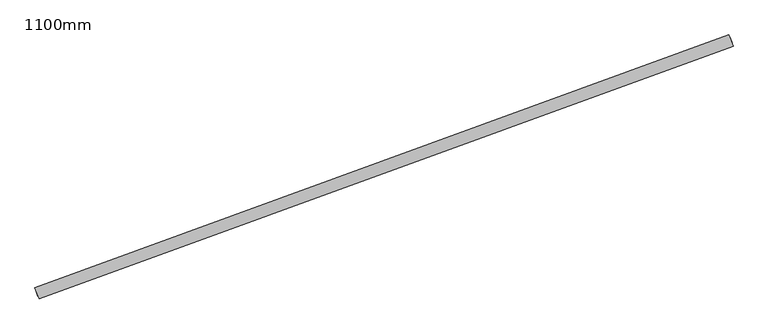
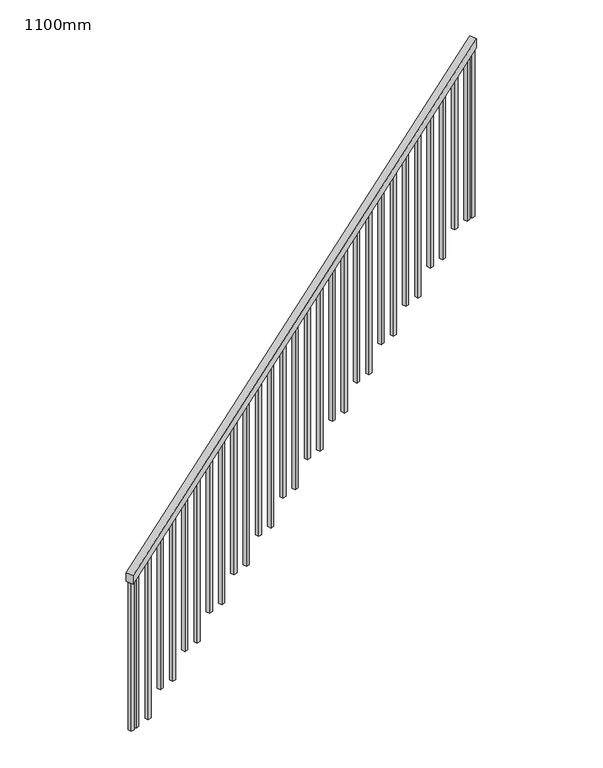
"""IFC4 building model written with IfcOpenShell, lengths in millimetres: railing geometry, 1100mm."""

from ifc_helpers import new_model, si_unit, frame, origin, place, context, project, spatial, polyline, outline, extrude, source, transform, mapped, element, save


def railing_1100mm_d48766aa(model_context):
    return source(origin(), model_context, "Body", "SweptSolid", [
        extrude(outline(polyline([(34.448052, -50.0), (0.0, 0.0), (3740.2251269, 0.0), (3774.6731789, -50.0), (34.448052, -50.0)])), frame((42248.9312564, -29429.3733902, 3690.8534882), z_axis=(-0.3420201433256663, 0.9396926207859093, 0.0), x_axis=(0.7738179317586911, 0.2816466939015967, 0.5673455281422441)), (0.0, 0.0, 1.0), 50.0),
        extrude(outline(polyline([(1252.9606311, 25.0), (1252.9606311, 0.0), (91.3879871, 0.0), (108.612013, 25.0), (1252.9606311, 25.0)])), frame((45098.9723402, -28378.741047, 5874.9606311), z_axis=(-0.34202014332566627, 0.9396926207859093, 0.0), x_axis=(0.0, 0.0, -1.0)), (0.0, 0.0, 1.0), 25.0),
        extrude(outline(polyline([(1177.1749168, 25.0), (1177.1749168, 0.0), (91.387987, 0.0), (108.612013, 25.0), (1177.1749168, 25.0)])), frame((44995.6061519, -28416.3632628, 5799.1749168), z_axis=(-0.34202014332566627, 0.9396926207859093, 0.0), x_axis=(0.0, 0.0, -1.0)), (0.0, 0.0, 1.0), 25.0),
        extrude(outline(polyline([(1252.9606311, 25.0), (1252.9606311, 0.0), (91.387987, 0.0), (108.612013, 25.0), (1252.9606311, 25.0)])), frame((44892.2399636, -28453.9854786, 5723.3892025), z_axis=(-0.34202014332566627, 0.9396926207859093, 0.0), x_axis=(0.0, 0.0, -1.0)), (0.0, 0.0, 1.0), 25.0),
        extrude(outline(polyline([(1177.1749168, 25.0), (1177.1749168, 0.0), (91.387987, 0.0), (108.612013, 25.0), (1177.1749168, 25.0)])), frame((44788.8737753, -28491.6076943, 5647.6034882), z_axis=(-0.34202014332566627, 0.9396926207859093, 0.0), x_axis=(0.0, 0.0, -1.0)), (0.0, 0.0, 1.0), 25.0),
        extrude(outline(polyline([(1252.960631, 25.0000001), (1252.960631, 0.0), (91.387987, 0.0), (108.612013, 25.0000001), (1252.960631, 25.0000001)])), frame((44685.5075871, -28529.2299101, 5571.8177739), z_axis=(-0.34202014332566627, 0.9396926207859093, 0.0), x_axis=(0.0, 0.0, -1.0)), (0.0, 0.0, 1.0), 25.0),
        extrude(outline(polyline([(1177.1749167, 25.0), (1177.1749167, 0.0), (91.387987, 0.0), (108.612013, 25.0), (1177.1749167, 25.0)])), frame((44582.1413988, -28566.8521259, 5496.0320596), z_axis=(-0.34202014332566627, 0.9396926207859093, 0.0), x_axis=(0.0, 0.0, -1.0)), (0.0, 0.0, 1.0), 25.0),
        extrude(outline(polyline([(1252.960631, 25.0), (1252.960631, 0.0), (91.387987, 0.0), (108.6120129, 25.0), (1252.960631, 25.0)])), frame((44478.7752105, -28604.4743416, 5420.2463453), z_axis=(-0.34202014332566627, 0.9396926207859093, 0.0), x_axis=(0.0, 0.0, -1.0)), (0.0, 0.0, 1.0), 25.0),
        extrude(outline(polyline([(1177.1749168, 25.0), (1177.1749168, 0.0), (91.3879871, 0.0), (108.612013, 25.0), (1177.1749168, 25.0)])), frame((44375.4090222, -28642.0965574, 5344.4606311), z_axis=(-0.34202014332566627, 0.9396926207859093, 0.0), x_axis=(0.0, 0.0, -1.0)), (0.0, 0.0, 1.0), 25.0),
        extrude(outline(polyline([(1252.9606311, 25.0), (1252.9606311, 0.0), (91.387987, 0.0), (108.612013, 25.0), (1252.9606311, 25.0)])), frame((44272.0428339, -28679.7187732, 5268.6749168), z_axis=(-0.34202014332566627, 0.9396926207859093, 0.0), x_axis=(0.0, 0.0, -1.0)), (0.0, 0.0, 1.0), 25.0),
        extrude(outline(polyline([(1177.1749168, 25.0), (1177.1749168, 0.0), (91.387987, 0.0), (108.612013, 25.0), (1177.1749168, 25.0)])), frame((44168.6766456, -28717.3409889, 5192.8892025), z_axis=(-0.34202014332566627, 0.9396926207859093, 0.0), x_axis=(0.0, 0.0, -1.0)), (0.0, 0.0, 1.0), 25.0),
        extrude(outline(polyline([(1252.9606311, 25.0), (1252.9606311, 0.0), (91.387987, 0.0), (108.612013, 25.0), (1252.9606311, 25.0)])), frame((44065.3104573, -28754.9632047, 5117.1034882), z_axis=(-0.34202014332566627, 0.9396926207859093, 0.0), x_axis=(0.0, 0.0, -1.0)), (0.0, 0.0, 1.0), 25.0),
        extrude(outline(polyline([(1177.1749168, 25.0), (1177.1749168, 0.0), (91.387987, 0.0), (108.612013, 25.0), (1177.1749168, 25.0)])), frame((43961.9442691, -28792.5854205, 5041.3177739), z_axis=(-0.34202014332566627, 0.9396926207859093, 0.0), x_axis=(0.0, 0.0, -1.0)), (0.0, 0.0, 1.0), 25.0),
        extrude(outline(polyline([(1252.960631, 25.0000001), (1252.960631, 0.0), (91.387987, 0.0), (108.612013, 25.0000001), (1252.960631, 25.0000001)])), frame((43858.5780808, -28830.2076362, 4965.5320596), z_axis=(-0.34202014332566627, 0.9396926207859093, 0.0), x_axis=(0.0, 0.0, -1.0)), (0.0, 0.0, 1.0), 25.0),
        extrude(outline(polyline([(1177.1749167, 25.0), (1177.1749167, 0.0), (91.387987, 0.0), (108.6120129, 25.0), (1177.1749167, 25.0)])), frame((43755.2118925, -28867.829852, 4889.7463453), z_axis=(-0.34202014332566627, 0.9396926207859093, 0.0), x_axis=(0.0, 0.0, -1.0)), (0.0, 0.0, 1.0), 25.0),
        extrude(outline(polyline([(1252.9606311, 25.0), (1252.9606311, 0.0), (91.3879871, 0.0), (108.612013, 25.0), (1252.9606311, 25.0)])), frame((43651.8457042, -28905.4520678, 4813.9606311), z_axis=(-0.34202014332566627, 0.9396926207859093, 0.0), x_axis=(0.0, 0.0, -1.0)), (0.0, 0.0, 1.0), 25.0),
        extrude(outline(polyline([(1177.1749168, 25.0), (1177.1749168, 0.0), (91.387987, 0.0), (108.612013, 25.0), (1177.1749168, 25.0)])), frame((43548.4795159, -28943.0742835, 4738.1749168), z_axis=(-0.34202014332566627, 0.9396926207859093, 0.0), x_axis=(0.0, 0.0, -1.0)), (0.0, 0.0, 1.0), 25.0),
        extrude(outline(polyline([(1252.9606311, 25.0), (1252.9606311, 0.0), (91.387987, 0.0), (108.612013, 25.0), (1252.9606311, 25.0)])), frame((43445.1133276, -28980.6964993, 4662.3892025), z_axis=(-0.34202014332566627, 0.9396926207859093, 0.0), x_axis=(0.0, 0.0, -1.0)), (0.0, 0.0, 1.0), 25.0),
        extrude(outline(polyline([(1177.1749168, 25.0), (1177.1749168, 0.0), (91.387987, 0.0), (108.612013, 25.0), (1177.1749168, 25.0)])), frame((43341.7471393, -29018.3187151, 4586.6034882), z_axis=(-0.34202014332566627, 0.9396926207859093, 0.0), x_axis=(0.0, 0.0, -1.0)), (0.0, 0.0, 1.0), 25.0),
        extrude(outline(polyline([(1252.960631, 25.0), (1252.960631, 0.0), (91.387987, 0.0), (108.612013, 25.0), (1252.960631, 25.0)])), frame((43238.380951, -29055.9409308, 4510.8177739), z_axis=(-0.34202014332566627, 0.9396926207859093, 0.0), x_axis=(0.0, 0.0, -1.0)), (0.0, 0.0, 1.0), 25.0),
        extrude(outline(polyline([(1177.1749167, 25.0000001), (1177.1749167, 0.0), (91.387987, 0.0), (108.612013, 25.0000001), (1177.1749167, 25.0000001)])), frame((43135.0147628, -29093.5631466, 4435.0320596), z_axis=(-0.34202014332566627, 0.9396926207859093, 0.0), x_axis=(0.0, 0.0, -1.0)), (0.0, 0.0, 1.0), 25.0),
        extrude(outline(polyline([(1252.960631, 25.0), (1252.960631, 0.0), (91.387987, 0.0), (108.6120129, 25.0), (1252.960631, 25.0)])), frame((43031.6485745, -29131.1853624, 4359.2463453), z_axis=(-0.34202014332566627, 0.9396926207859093, 0.0), x_axis=(0.0, 0.0, -1.0)), (0.0, 0.0, 1.0), 25.0),
        extrude(outline(polyline([(1177.1749168, 25.0), (1177.1749168, 0.0), (91.3879871, 0.0), (108.612013, 25.0), (1177.1749168, 25.0)])), frame((42928.2823862, -29168.8075781, 4283.4606311), z_axis=(-0.34202014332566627, 0.9396926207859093, 0.0), x_axis=(0.0, 0.0, -1.0)), (0.0, 0.0, 1.0), 25.0),
        extrude(outline(polyline([(1252.9606311, 25.0), (1252.9606311, 0.0), (91.387987, 0.0), (108.612013, 25.0), (1252.9606311, 25.0)])), frame((42824.9161979, -29206.4297939, 4207.6749168), z_axis=(-0.34202014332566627, 0.9396926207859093, 0.0), x_axis=(0.0, 0.0, -1.0)), (0.0, 0.0, 1.0), 25.0),
        extrude(outline(polyline([(1177.1749168, 25.0), (1177.1749168, 0.0), (91.387987, 0.0), (108.612013, 25.0), (1177.1749168, 25.0)])), frame((42721.5500096, -29244.0520097, 4131.8892025), z_axis=(-0.34202014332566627, 0.9396926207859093, 0.0), x_axis=(0.0, 0.0, -1.0)), (0.0, 0.0, 1.0), 25.0),
        extrude(outline(polyline([(1252.9606311, 25.0), (1252.9606311, 0.0), (91.387987, 0.0), (108.612013, 25.0), (1252.9606311, 25.0)])), frame((42618.1838213, -29281.6742254, 4056.1034882), z_axis=(-0.34202014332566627, 0.9396926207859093, 0.0), x_axis=(0.0, 0.0, -1.0)), (0.0, 0.0, 1.0), 25.0),
        extrude(outline(polyline([(1177.1749168, 25.0), (1177.1749168, 0.0), (91.387987, 0.0), (108.612013, 25.0), (1177.1749168, 25.0)])), frame((42514.817633, -29319.2964412, 3980.3177739), z_axis=(-0.34202014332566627, 0.9396926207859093, 0.0), x_axis=(0.0, 0.0, -1.0)), (0.0, 0.0, 1.0), 25.0),
        extrude(outline(polyline([(1252.960631, 25.0), (1252.960631, 0.0), (91.387987, 0.0), (108.612013, 25.0), (1252.960631, 25.0)])), frame((42411.4514448, -29356.918657, 3904.5320596), z_axis=(-0.34202014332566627, 0.9396926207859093, 0.0), x_axis=(0.0, 0.0, -1.0)), (0.0, 0.0, 1.0), 25.0),
        extrude(outline(polyline([(1177.1749167, 25.0000001), (1177.1749167, 0.0), (91.387987, 0.0), (108.6120129, 25.0000001), (1177.1749167, 25.0000001)])), frame((42308.0852565, -29394.5408727, 3828.7463453), z_axis=(-0.34202014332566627, 0.9396926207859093, 0.0), x_axis=(0.0, 0.0, -1.0)), (0.0, 0.0, 1.0), 25.0),
        extrude(outline(polyline([(1282.2414752, 25.0), (1282.2414752, 0.0), (91.387987, 0.0), (108.612013, 25.0), (1282.2414752, 25.0)])), frame((45138.9092766, -28364.2051909, 5904.2414752), z_axis=(-0.34202014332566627, 0.9396926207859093, 0.0), x_axis=(0.0, 0.0, -1.0)), (0.0, 0.0, 1.0), 25.0),
        extrude(outline(polyline([(1147.8940726, 25.0), (1147.8940726, 0.0), (91.387987, 0.0), (108.612013, 25.0), (1147.8940726, 25.0)])), frame((42268.1483201, -29409.0767288, 3799.4655012), z_axis=(-0.34202014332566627, 0.9396926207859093, 0.0), x_axis=(0.0, 0.0, -1.0)), (0.0, 0.0, 1.0), 25.0),
    ])


if __name__ == "__main__":
    model = new_model("IFC4")
    model_context = context("Model", 3, world=origin())
    ifc_project = project(units=[si_unit("LENGTHUNIT", "METRE", prefix="MILLI")], contexts=[model_context])
    site = spatial("IfcSite", under=ifc_project)
    building = spatial("IfcBuilding", under=site)
    placement = place(None, origin())
    railing_1100mm_shape = railing_1100mm_d48766aa(model_context)
    element("IfcRailing", 1, ObjectType="1100mm", at=placement, inside=building, context=model_context, shape_type="MappedRepresentation", body=[
        mapped(railing_1100mm_shape, transform((0.0, 0.0, 0.0), x_axis=(1.0, 0.0, 0.0), y_axis=(0.0, 1.0, 0.0), z_axis=(0.0, 0.0, 1.0))),
    ])
    save(model, "model.ifc")
